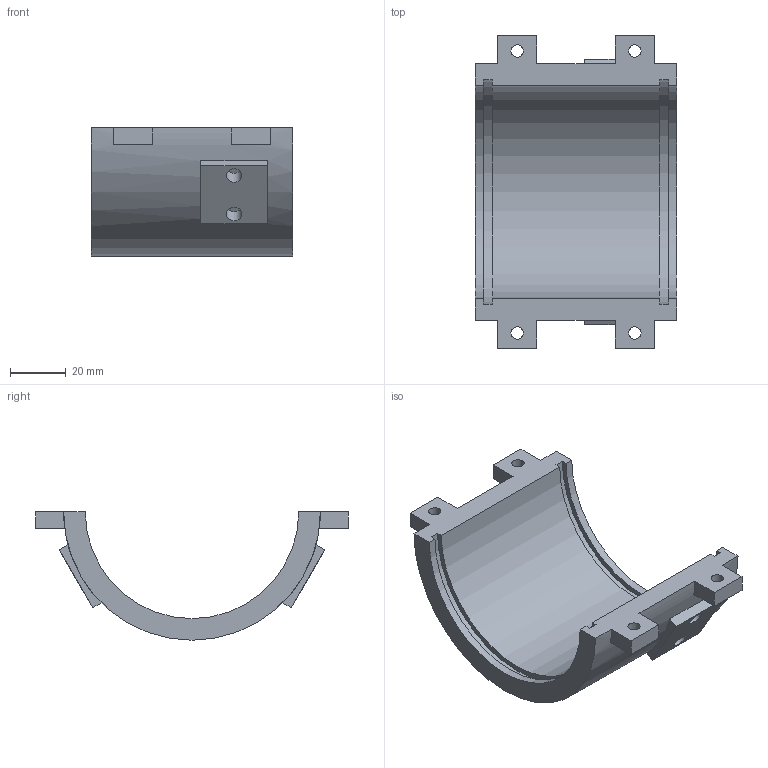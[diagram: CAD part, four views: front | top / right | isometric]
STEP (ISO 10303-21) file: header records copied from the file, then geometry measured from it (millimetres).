
FILE_DESCRIPTION(('Open CASCADE Model'),'2;1');
FILE_NAME('Open CASCADE Shape Model','2026-11-02T23:22:41',('Author'),( 'Open CASCADE'),'Open CASCADE STEP processor 7.9','Open CASCADE 7.9' ,'Unknown');
FILE_SCHEMA(('AUTOMOTIVE_DESIGN { 1 0 10303 214 1 1 1 1 }'));
Length unit declared in the file: millimetre
Products named in the file (1): Open CASCADE STEP translator 7.9 19
Bounding box: 72.2 x 112 x 46 mm (x, y, z)
Volume: 77863.1 mm3; surface area: 26098.9 mm2
Topology: 1 solids, 1 shells, 52 faces, 132 edges, 88 vertices
Faces by surface type: plane 38, cylinder 14
Full cylindrical faces by diameter (mm): 4.4 x4, 5.6 x4
Entity records: 3292 total; most frequent: CARTESIAN_POINT 725, DIRECTION 444, ORIENTED_EDGE 264, PCURVE 264, DEFINITIONAL_REPRESENTATION 264, LINE 236, VECTOR 236, EDGE_CURVE 132
